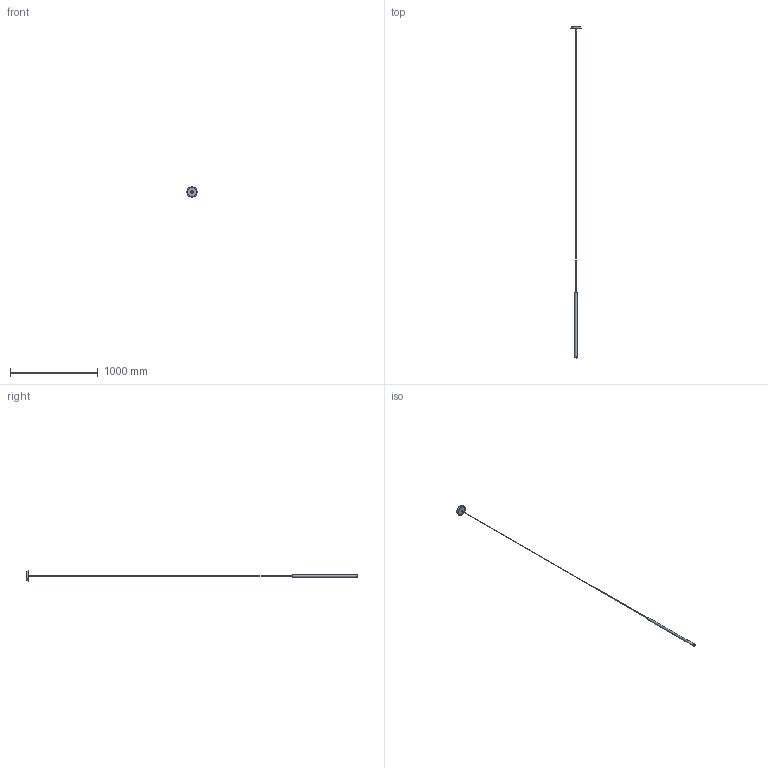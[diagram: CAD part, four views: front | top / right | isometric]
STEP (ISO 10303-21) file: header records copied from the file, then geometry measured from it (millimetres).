
FILE_DESCRIPTION(/* description */ (''),/* implementation_level */ '2;1');
FILE_NAME(/* name */ 'C:\Users\Giulia\Dropbox\MODELLI DG 2015\CAD 3D\MISS\1610 - MISS 1.stp',/* time_stamp */ '2015-04-22T09:06:44+02:00',/* author */ ('Giulia'),/* organization */ (''),/* preprocessor_version */ 'ST-DEVELOPER v15.6',/* originating_system */ 'Autodesk Inventor 2015',/* authorisation */ '');
FILE_SCHEMA (('AUTOMOTIVE_DESIGN { 1 0 10303 214 3 1 1 }'));
Length unit declared in the file: centimetre
Products named in the file (1): 1610 - MISS 1
Bounding box: 120 x 3777 x 120 mm (x, y, z)
Volume: 368880.1 mm3; surface area: 198027.7 mm2
Topology: 3 solids, 3 shells, 27 faces, 42 edges, 27 vertices
Faces by surface type: cylinder 12, plane 12, cone 2, torus 1
Full cylindrical faces by diameter (mm): 5 x1, 6.6 x1, 6.75 x1, 8.917 x2, 15 x2, 21.5 x1, 23 x1, 25 x1, 105 x1, 120 x1
Entity records: 568 total; most frequent: DIRECTION 106, CARTESIAN_POINT 78, AXIS2_PLACEMENT_3D 53, EDGE_LOOP 50, ORIENTED_EDGE 50, FACE_OUTER_BOUND 27, ADVANCED_FACE 27, CIRCLE 25
